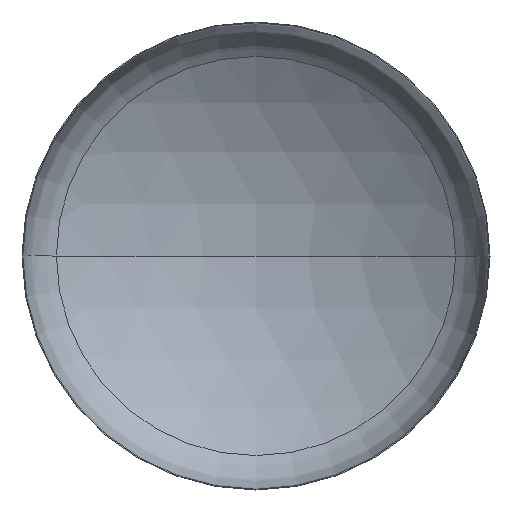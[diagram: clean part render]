
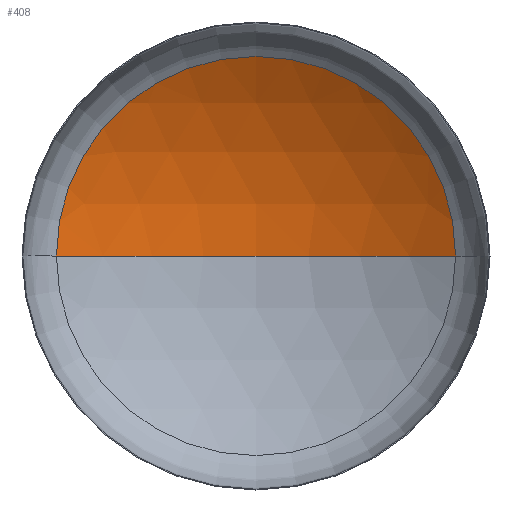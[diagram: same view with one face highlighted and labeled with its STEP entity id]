
A CAD part, front view. The second image highlights one B-rep face of the part: STEP entity #408.
In plain terms, the highlighted spherical face has radius 5200 mm.
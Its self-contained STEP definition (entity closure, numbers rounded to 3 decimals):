
#2 = CARTESIAN_POINT ( 'NONE',  ( 0., -3513.432, 0. ) ) ;
#6 = DIRECTION ( 'NONE',  ( 0., 0., 1. ) ) ;
#30 = CARTESIAN_POINT ( 'NONE',  ( 0., 886.055, 0. ) ) ;
#39 = CARTESIAN_POINT ( 'NONE',  ( 0., 1686.568, 0. ) ) ;
#43 = DIRECTION ( 'NONE',  ( 1., 0., 0. ) ) ;
#51 = CARTESIAN_POINT ( 'NONE',  ( 0., -3513.432, 0. ) ) ;
#59 = AXIS2_PLACEMENT_3D ( 'NONE', #2, #6, #43 ) ;
#60 = ORIENTED_EDGE ( 'NONE', *, *, #146, .T. ) ;
#66 = AXIS2_PLACEMENT_3D ( 'NONE', #166, #371, #192 ) ;
#74 = AXIS2_PLACEMENT_3D ( 'NONE', #30, #306, #87 ) ;
#87 = DIRECTION ( 'NONE',  ( 1., 0., 0. ) ) ;
#94 = CIRCLE ( 'NONE', #74, 2772.095 ) ;
#136 = ORIENTED_EDGE ( 'NONE', *, *, #141, .T. ) ;
#141 = EDGE_CURVE ( 'NONE', #377, #337, #94, .T. ) ;
#146 = EDGE_CURVE ( 'NONE', #170, #377, #405, .T. ) ;
#155 = EDGE_CURVE ( 'NONE', #170, #337, #181, .T. ) ;
#166 = CARTESIAN_POINT ( 'NONE',  ( 0., -3513.432, 0. ) ) ;
#170 = VERTEX_POINT ( 'NONE', #39 ) ;
#181 = CIRCLE ( 'NONE', #59, 5200. ) ;
#192 = DIRECTION ( 'NONE',  ( -1., 0., 0. ) ) ;
#250 = EDGE_LOOP ( 'NONE', ( #293, #60, #136 ) ) ;
#276 = FACE_OUTER_BOUND ( 'NONE', #250, .T. ) ;
#284 = CARTESIAN_POINT ( 'NONE',  ( -2772.095, 886.055, 0. ) ) ;
#288 = DIRECTION ( 'NONE',  ( 0., 0., -1. ) ) ;
#293 = ORIENTED_EDGE ( 'NONE', *, *, #155, .F. ) ;
#306 = DIRECTION ( 'NONE',  ( 0., -1., 0. ) ) ;
#336 = AXIS2_PLACEMENT_3D ( 'NONE', #51, #288, #348 ) ;
#337 = VERTEX_POINT ( 'NONE', #284 ) ;
#342 = CARTESIAN_POINT ( 'NONE',  ( 2772.095, 886.055, 0. ) ) ;
#348 = DIRECTION ( 'NONE',  ( -1., 0., 0. ) ) ;
#355 = SPHERICAL_SURFACE ( 'NONE', #336, 5200. ) ;
#371 = DIRECTION ( 'NONE',  ( 0., 0., -1. ) ) ;
#377 = VERTEX_POINT ( 'NONE', #342 ) ;
#405 = CIRCLE ( 'NONE', #66, 5200. ) ;
#408 = ADVANCED_FACE ( 'NONE', ( #276 ), #355, .F. ) ;
